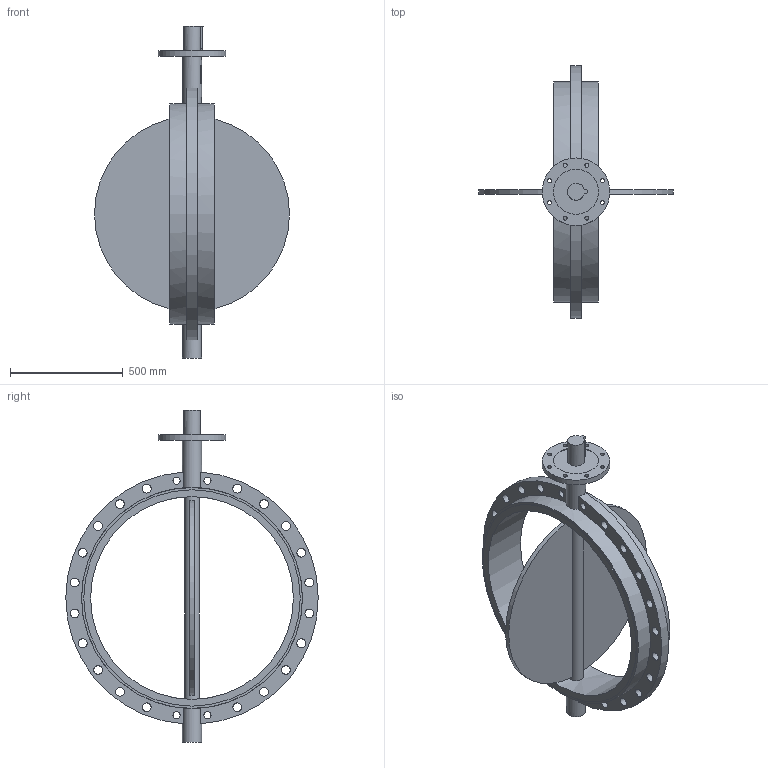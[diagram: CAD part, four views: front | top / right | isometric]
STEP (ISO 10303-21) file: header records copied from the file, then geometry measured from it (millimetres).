
FILE_DESCRIPTION(('STEP AP203'), '1');
FILE_NAME('青蜮铕 017W.YS_DN900_PN16', '', ('UNSPECIFIED'), ('UNSPECIFIED'), 'ASCON STEP Converter 1.6', 'ASCON Math Kernel', '');
FILE_SCHEMA(('CONFIG_CONTROL_DESIGN'));
Length unit declared in the file: millimetre
Bounding box: 864.7 x 1120 x 1473 mm (x, y, z)
Volume: 50272297 mm3; surface area: 3507484 mm2
Topology: 1 solids, 1 shells, 92 faces, 235 edges, 156 vertices
Faces by surface type: cylinder 56, plane 36
Full cylindrical faces by diameter (mm): 18 x8, 31.67 x4, 39 x20, 65 x1, 75 x1, 85 x2, 200 x1, 300 x1, 900 x1, 960 x2, 980 x2
Entity records: 4603 total; most frequent: CARTESIAN_POINT 1546, DIRECTION 474, ORIENTED_EDGE 384, EDGE_LOOP 214, AXIS2_PLACEMENT_3D 207, EDGE_CURVE 192, VERTEX_POINT 156, FACE_BOUND 133
